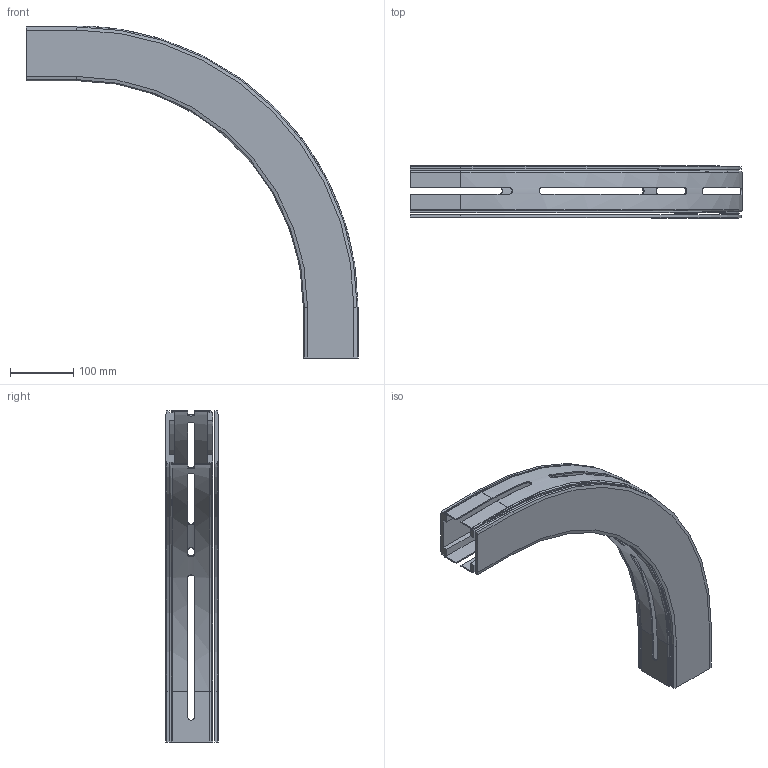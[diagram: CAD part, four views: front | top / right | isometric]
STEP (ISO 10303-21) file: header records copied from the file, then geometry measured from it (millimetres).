
FILE_DESCRIPTION((''),'2;1');
FILE_NAME('C:\Vault Klient\Projekt\Koncept konstruktion\Serie 530 Balk\530-5260.stp','2010-12-01T08:13:02',('Mathias'),(''),'Autodesk Inventor 2011','Autodesk Inventor 2011','');
FILE_SCHEMA(('AUTOMOTIVE_DESIGN { 1 0 10303 214 1 1 1 1 }'));
Length unit declared in the file: millimetre
Products named in the file (1): 530-5260
Bounding box: 523 x 82 x 523 mm (x, y, z)
Volume: 1140830.5 mm3; surface area: 545760.9 mm2
Topology: 2 solids, 2 shells, 171 faces, 482 edges, 316 vertices
Faces by surface type: plane 111, cylinder 30, bspline 22, torus 4, cone 4
Entity records: 6078 total; most frequent: CARTESIAN_POINT 1620, ORIENTED_EDGE 964, DIRECTION 830, EDGE_CURVE 482, VECTOR 346, LINE 346, VERTEX_POINT 316, AXIS2_PLACEMENT_3D 242
